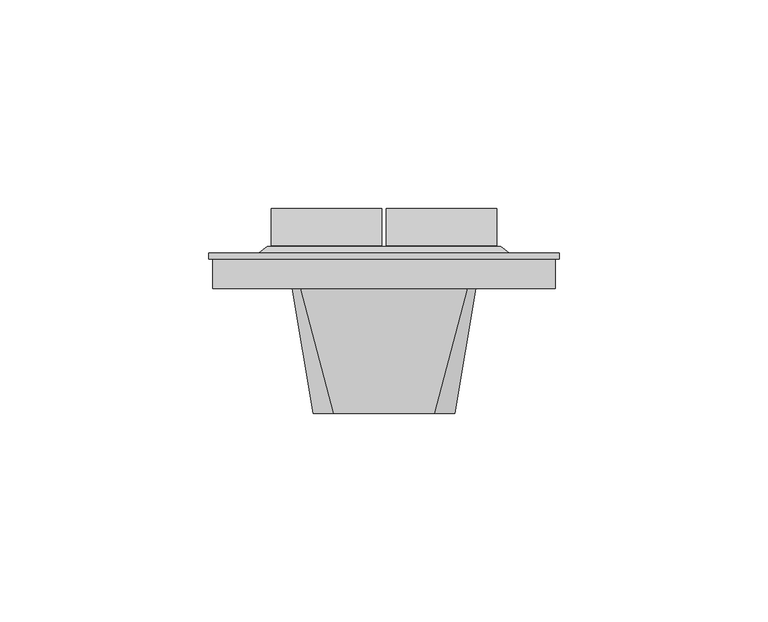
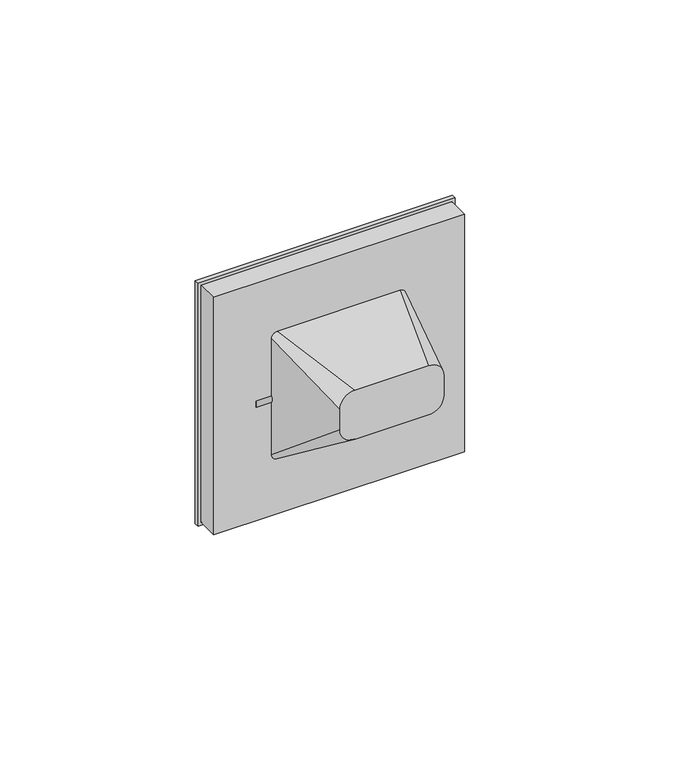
"""IFC4 building model written with IfcOpenShell, lengths in millimetres: proxy geometry, IEK_Brite_Выключатель : В2_ВСР10-2-0-БрА."""

from ifc_helpers import new_model, si_unit, point, frame, frame_2d, origin, place, context, project, spatial, polyline, circle_curve, trimmed, segment, composite_curve, outline, extrude, faceted_brep, source, transform, mapped, element, save
from ifc_brep_helpers import plane_surface, spline_surface, advanced_brep


def electrical_fixtures_b969a870(model_context):
    return source(origin(), model_context, "Body", "SolidModel", [
        extrude(outline(composite_curve([segment(polyline([(19.1247035, -24.1237652), (11.4236286, -26.3320129), (7.3756597, -3.3748404), (1.5972872, -2.8692983)]), True, "CONTINUOUS"), segment(trimmed(circle_curve(frame_2d((1.7530049, -1.0894363)), 1.7866608), [point((1.5972872, -2.8692983))], [point((0.9979294, 0.5298284))], False, "CARTESIAN"), True, "CONTINUOUS"), segment(polyline([(0.9979294, 0.5298284), (6.2549179, 2.9812023), (2.206949, 25.9383748), (10.1988574, 26.4972235), (19.1247035, -24.1237652)]), True, "CONTINUOUS")], self_intersect=False)), frame((-27.0, 0.0, 0.0), z_axis=(1.0, 0.0, 0.0), x_axis=(0.0, 1.0, 0.0)), (0.0, 0.0, 1.0), 26.5),
        extrude(outline(composite_curve([segment(polyline([(19.1247035, -24.1237652), (11.4236286, -26.3320129), (7.3756597, -3.3748404), (1.5972872, -2.8692983)]), True, "CONTINUOUS"), segment(trimmed(circle_curve(frame_2d((1.7530049, -1.0894363)), 1.7866608), [point((1.5972872, -2.8692983))], [point((0.9979294, 0.5298284))], False, "CARTESIAN"), True, "CONTINUOUS"), segment(polyline([(0.9979294, 0.5298284), (6.2549179, 2.9812023), (2.206949, 25.9383748), (10.1988574, 26.4972235), (19.1247035, -24.1237652)]), True, "CONTINUOUS")], self_intersect=False)), frame((0.5, 0.0, 0.0), z_axis=(1.0, 0.0, 0.0), x_axis=(0.0, 1.0, 0.0)), (0.0, 0.0, 1.0), 26.5),
        advanced_brep(
        [(-42.0, 7.0, 42.0), (-42.0, 7.0, -42.0), (42.0, 7.0, -42.0), (42.0, 7.0, 42.0), (-41.0, 7.0, -41.0), (-41.0, 7.0, 41.0), (41.0, 7.0, 41.0), (41.0, 7.0, -41.0), (-42.0, 8.5, 42.0), (42.0, 8.5, 42.0), (42.0, 8.5, -42.0), (-42.0, 8.5, -42.0), (-27.5, 8.5, -27.5), (27.5, 8.5, -27.5), (27.5, 8.5, 27.5), (-27.5, 8.5, 27.5), (-27.5, 2.206949, -27.5), (-27.5, 2.206949, 27.5), (27.5, 2.206949, 27.5), (27.5, 2.206949, -27.5), (-41.0, 0.0, 41.0), (-41.0, 0.0, -41.0), (41.0, 0.0, -41.0), (41.0, 0.0, 41.0), (-20.0, 0.0, 22.0), (20.0, 0.0, 22.0), (22.0, 0.0, 20.0), (22.0, 0.0, -20.0), (20.0, 0.0, -22.0), (-20.0, 0.0, -22.0), (-22.0, 0.0, -20.0), (-22.0, 0.0, 20.0), (-12.0, -30.0, 17.0), (-17.0, -30.0, 12.0), (-17.0, -30.0, 5.0), (-12.0, -30.0, 0.0), (12.0, -30.0, 0.0), (17.0, -30.0, 5.0), (17.0, -30.0, 12.0), (12.0, -30.0, 17.0)],
        [
            (0, 1),
            (1, 2),
            (2, 3),
            (3, 0),
            (4, 5),
            (5, 6),
            (6, 7),
            (7, 4),
            (8, 9),
            (9, 10),
            (10, 11),
            (11, 8),
            (12, 13),
            (13, 14),
            (14, 15),
            (15, 12),
            (3, 9),
            (8, 0),
            (2, 10),
            (1, 11),
            (16, 17),
            (17, 18),
            (18, 19),
            (19, 16),
            (19, 13),
            (12, 16),
            (18, 14),
            (17, 15),
            (20, 21),
            (21, 22),
            (22, 23),
            (23, 20),
            (24, 25),
            (25, 26, circle_curve(frame((20.0, 0.0, 20.0), z_axis=(0.0, 1.0, 0.0), x_axis=(1.0, 0.0, 0.0)), 2.0)),
            (26, 27),
            (27, 28, circle_curve(frame((20.0, 0.0, -20.0), z_axis=(0.0, 1.0, 0.0), x_axis=(1.0, 0.0, 0.0)), 2.0)),
            (28, 29),
            (29, 30, circle_curve(frame((-20.0, 0.0, -20.0), z_axis=(0.0, 1.0, 0.0), x_axis=(1.0, 0.0, 0.0)), 2.0)),
            (30, 31),
            (31, 24, circle_curve(frame((-20.0, 0.0, 20.0), z_axis=(0.0, 1.0, 0.0), x_axis=(1.0, 0.0, 0.0)), 2.0)),
            (20, 5),
            (4, 21),
            (7, 22),
            (6, 23),
            (32, 33, circle_curve(frame((-12.0, -30.0, 12.0), z_axis=(0.0, -1.0, 0.0), x_axis=(1.0, 0.0, 0.0)), 5.0)),
            (33, 34),
            (34, 35, circle_curve(frame((-12.0, -30.0, 5.0), z_axis=(0.0, -1.0, 0.0), x_axis=(1.0, 0.0, 0.0)), 5.0)),
            (35, 36),
            (36, 37, circle_curve(frame((12.0, -30.0, 5.0), z_axis=(0.0, -1.0, 0.0), x_axis=(1.0, 0.0, 0.0)), 5.0)),
            (37, 38),
            (38, 39, circle_curve(frame((12.0, -30.0, 12.0), z_axis=(0.0, -1.0, 0.0), x_axis=(1.0, 0.0, 0.0)), 5.0)),
            (39, 32),
            (39, 25),
            (24, 32),
            (38, 26),
            (37, 27),
            (36, 28),
            (35, 29),
            (34, 30),
            (33, 31),
        ],
        [
            plane_surface(frame((42.0, 7.0, 42.0), z_axis=(0.0, -1.0, 0.0), x_axis=(-1.0, 0.0, 0.0))),
            plane_surface(frame((42.0, 8.5, 42.0), z_axis=(0.0, 1.0, 0.0), x_axis=(1.0, 0.0, 0.0))),
            plane_surface(frame((-42.0, 8.5, 42.0), z_axis=(0.0, 0.0, 1.0), x_axis=(0.0, -1.0, 0.0))),
            plane_surface(frame((42.0, 8.5, 42.0), z_axis=(1.0, 0.0, 0.0), x_axis=(0.0, -1.0, 0.0))),
            plane_surface(frame((42.0, 8.5, -42.0), z_axis=(0.0, 0.0, -1.0), x_axis=(0.0, -1.0, 0.0))),
            plane_surface(frame((-42.0, 8.5, -42.0), z_axis=(-1.0, 0.0, 0.0), x_axis=(0.0, -1.0, 0.0))),
            plane_surface(frame((27.5, 2.206949, -27.5), z_axis=(0.0, 1.0, 0.0), x_axis=(1.0, 0.0, 0.0))),
            plane_surface(frame((-27.5, 2.206949, -27.5), z_axis=(0.0, 0.0, 1.0), x_axis=(0.0, 1.0, 0.0))),
            plane_surface(frame((27.5, 2.206949, -27.5), z_axis=(-1.0, 0.0, 0.0), x_axis=(0.0, 1.0, 0.0))),
            plane_surface(frame((27.5, 2.206949, 27.5), z_axis=(0.0, 0.0, -1.0), x_axis=(0.0, 1.0, 0.0))),
            plane_surface(frame((-27.5, 2.206949, 27.5), z_axis=(1.0, 0.0, 0.0), x_axis=(0.0, 1.0, 0.0))),
            plane_surface(frame((-41.0, 0.0, 41.0), z_axis=(0.0, -1.0, 0.0), x_axis=(0.0, 0.0, -1.0))),
            plane_surface(frame((-41.0, 0.0, 41.0), z_axis=(-1.0, 0.0, 0.0), x_axis=(0.0, 1.0, 0.0))),
            plane_surface(frame((-41.0, 0.0, -41.0), z_axis=(0.0, 0.0, -1.0), x_axis=(0.0, 1.0, 0.0))),
            plane_surface(frame((41.0, 0.0, -41.0), z_axis=(1.0, 0.0, 0.0), x_axis=(0.0, 1.0, 0.0))),
            plane_surface(frame((41.0, 0.0, 41.0), z_axis=(0.0, 0.0, 1.0), x_axis=(0.0, 1.0, 0.0))),
            plane_surface(frame((0.0, -30.0, 8.5), z_axis=(0.0, -1.0, 0.0), x_axis=(-1.0, 0.0, 0.0))),
            plane_surface(frame((0.0, 0.0, 22.0), z_axis=(0.0, -0.16439898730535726, 0.9863939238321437), x_axis=(-1.0, 0.0, 0.0))),
            spline_surface(2, 1, [[(22.0, 0.0, 20.0), (17.0, -30.0, 12.0)], [(22.0, 0.0, 22.0), (17.0, -30.0, 17.0)], [(20.0, 0.0, 22.0), (12.0, -30.0, 17.0)]], [3, 3], [2, 2], [0.0, 1.0], [0.0, 1.0], weights=[[1.0, 1.0], [0.7071067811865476, 0.7071067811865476], [1.0, 1.0]]),
            plane_surface(frame((22.0, 0.0, 0.0), z_axis=(0.9863939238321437, -0.1643989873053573, 0.0), x_axis=(0.0, 0.0, 1.0))),
            spline_surface(2, 1, [[(20.0, 0.0, -22.0), (12.0, -30.0, 0.0)], [(22.0, 0.0, -22.0), (17.0, -30.0, 0.0)], [(22.0, 0.0, -20.0), (17.0, -30.0, 5.0)]], [3, 3], [2, 2], [0.0, 1.0], [0.0, 1.0], weights=[[1.0, 1.0], [0.7071067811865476, 0.7071067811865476], [1.0, 1.0]]),
            plane_surface(frame((0.0, 0.0, -22.0), z_axis=(0.0, -0.591363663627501, -0.8064049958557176), x_axis=(1.0, 0.0, 0.0))),
            spline_surface(2, 1, [[(-22.0, 0.0, -20.0), (-17.0, -30.0, 5.0)], [(-22.0, 0.0, -22.0), (-17.0, -30.0, 0.0)], [(-20.0, 0.0, -22.0), (-12.0, -30.0, 0.0)]], [3, 3], [2, 2], [0.0, 1.0], [0.0, 1.0], weights=[[1.0, 1.0], [0.7071067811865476, 0.7071067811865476], [1.0, 1.0]]),
            plane_surface(frame((-22.0, 0.0, 0.0), z_axis=(-0.9863939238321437, -0.1643989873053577, 0.0), x_axis=(0.0, 0.0, -1.0))),
            spline_surface(2, 1, [[(-20.0, 0.0, 22.0), (-12.0, -30.0, 17.0)], [(-22.0, 0.0, 22.0), (-17.0, -30.0, 17.0)], [(-22.0, 0.0, 20.0), (-17.0, -30.0, 12.0)]], [3, 3], [2, 2], [0.0, 1.0], [0.0, 1.0], weights=[[1.0, 1.0], [0.7071067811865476, 0.7071067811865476], [1.0, 1.0]]),
        ],
        [
            (0, [[1, 2, 3, 4], [5, 6, 7, 8]]),
            (1, [[9, 10, 11, 12], [13, 14, 15, 16]]),
            (2, [[-4, 17, -9, 18]]),
            (3, [[-3, 19, -10, -17]]),
            (4, [[-2, 20, -11, -19]]),
            (5, [[-1, -18, -12, -20]]),
            (6, [[21, 22, 23, 24]]),
            (7, [[-24, 25, -13, 26]]),
            (8, [[-23, 27, -14, -25]]),
            (9, [[-22, 28, -15, -27]]),
            (10, [[-21, -26, -16, -28]]),
            (11, [[29, 30, 31, 32], [33, 34, 35, 36, 37, 38, 39, 40]]),
            (12, [[-29, 41, -5, 42]]),
            (13, [[-30, -42, -8, 43]]),
            (14, [[-31, -43, -7, 44]]),
            (15, [[-32, -44, -6, -41]]),
            (16, [[45, 46, 47, 48, 49, 50, 51, 52]]),
            (17, [[-52, 53, -33, 54]]),
            (18, [[-51, 55, -34, -53]]),
            (19, [[-50, 56, -35, -55]]),
            (20, [[-49, 57, -36, -56]]),
            (21, [[-48, 58, -37, -57]]),
            (22, [[-47, 59, -38, -58]]),
            (23, [[-46, 60, -39, -59]]),
            (24, [[-45, -54, -40, -60]]),
        ],
    ),
        faceted_brep([(-30.0, 8.5, 30.0), (-30.0, 8.5, -30.0), (30.0, 8.5, -30.0), (30.0, 8.5, 30.0), (27.5, 8.5, -27.5), (-27.5, 8.5, -27.5), (-27.5, 8.5, 27.5), (27.5, 8.5, 27.5), (-28.0, 10.0, 28.0), (28.0, 10.0, 28.0), (28.0, 10.0, -28.0), (-28.0, 10.0, -28.0), (-27.5, 10.0, -27.5), (27.5, 10.0, -27.5), (27.5, 10.0, 27.5), (-27.5, 10.0, 27.5)], [[[0, 1, 2, 3], [4, 5, 6, 7]], [[8, 9, 10, 11], [12, 13, 14, 15]], [[1, 0, 8, 11]], [[2, 1, 11, 10]], [[3, 2, 10, 9]], [[0, 3, 9, 8]], [[12, 5, 4, 13]], [[13, 4, 7, 14]], [[14, 7, 6, 15]], [[5, 12, 15, 6]]]),
    ])


if __name__ == "__main__":
    model = new_model("IFC4")
    model_context = context("Model", 3, world=origin())
    ifc_project = project(units=[si_unit("LENGTHUNIT", "METRE", prefix="MILLI")], contexts=[model_context])
    site = spatial("IfcSite", under=ifc_project)
    building = spatial("IfcBuilding", under=site)
    placement = place(None, origin())
    electrical_fixtures_shape = electrical_fixtures_b969a870(model_context)
    element("IfcBuildingElementProxy", 1, Name="IEK_Brite_Выключатель : В2_ВСР10-2-0-БрА", ObjectType="IEK_Brite_Выключатель : В2_ВСР10-2-0-БрА", at=placement, inside=building, context=model_context, shape_type="MappedRepresentation", body=[
        mapped(electrical_fixtures_shape, transform((0.0, 0.0, 0.0), x_axis=(1.0, 0.0, 0.0), y_axis=(0.0, 1.0, 0.0), z_axis=(0.0, 0.0, 1.0))),
    ])
    save(model, "model.ifc")
